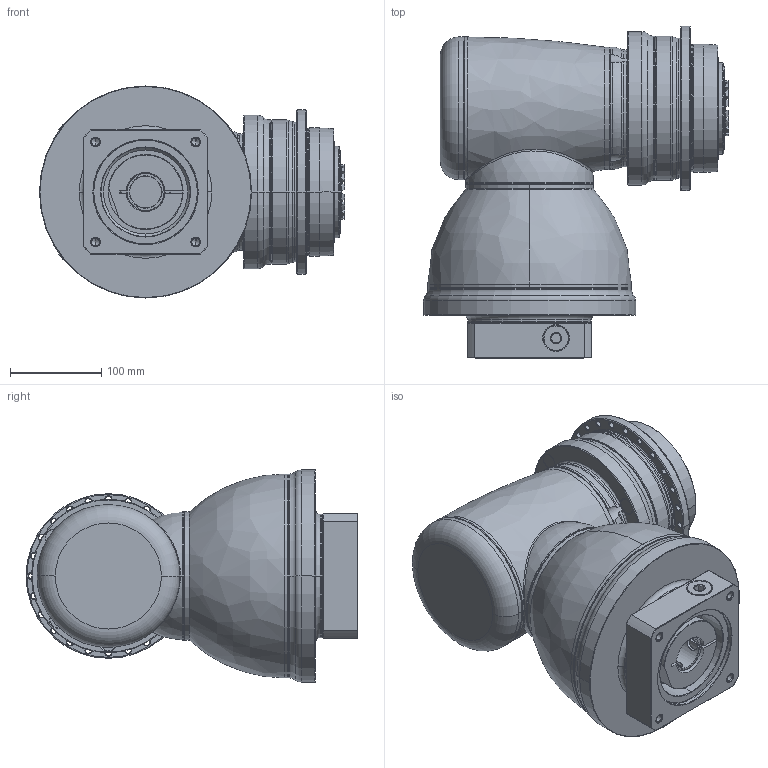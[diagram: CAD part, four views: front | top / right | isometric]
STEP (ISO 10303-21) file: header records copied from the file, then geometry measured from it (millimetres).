
FILE_DESCRIPTION((''),'2;1');
FILE_NAME('APCK140_2ST_SBG_35-P0409800201_ASM','2018-05-18T',('d01226'),(''),'PRO/ENGINEER BY PARAMETRIC TECHNOLOGY CORPORATION, 2008410','PRO/ENGINEER BY PARAMETRIC TECHNOLOGY CORPORATION, 2008410','');
FILE_SCHEMA(('CONFIG_CONTROL_DESIGN'));
Length unit declared in the file: millimetre
Products named in the file (13): P0278501003; P03595D0103; P1211500001; P1802510011; P1018600002; P1365600001; P1007601001; P1318610101; P0409800201; P0503800012; P0912601001; 21711422019; APCK140_2ST_SBG_35-P0409800201_ASM
Assembly tree (12 placements, depth 2):
  APCK140_2ST_SBG_35-P0409800201_ASM
    P0278501003
    P03595D0103
    P1211500001
    P1802510011
    P1018600002
    P1365600001
    P1007601001
    P1318610101
    P0409800201
    P0503800012
    P0912601001
    21711422019
Bounding box: 333.6 x 363 x 232 mm (x, y, z)
Volume: 10847063.5 mm3; surface area: 797357 mm2
Topology: 13 solids, 23 shells, 801 faces, 1888 edges, 1158 vertices
Faces by surface type: cylinder 263, cone 232, plane 146, torus 134, bspline 24, sphere 2
Entity records: 30190 total; most frequent: CARTESIAN_POINT 11196, DIRECTION 4263, ORIENTED_EDGE 3706, EDGE_CURVE 1874, AXIS2_PLACEMENT_3D 1864, VERTEX_POINT 1158, CIRCLE 1052, EDGE_LOOP 924
